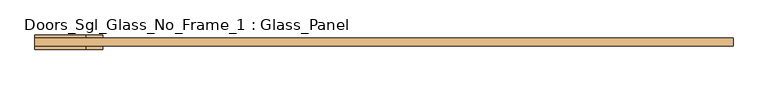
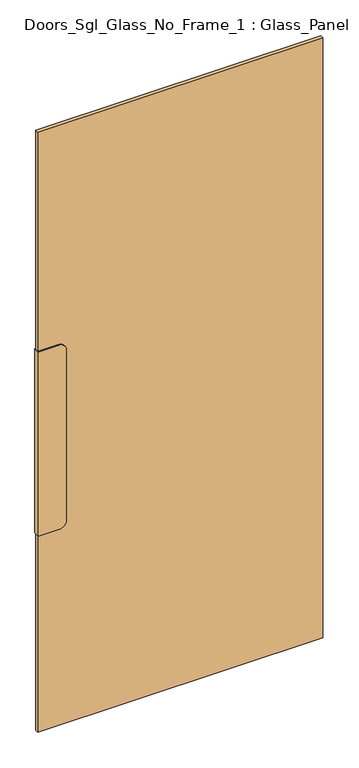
"""IFC4 building model written with IfcOpenShell, lengths in millimetres: door geometry, Doors_Sgl_Glass_No_Frame_1 : Glass_Panel."""

from ifc_helpers import new_model, si_unit, point, frame, frame_2d, origin, origin_with_axes, place, context, project, spatial, polyline, circle_curve, trimmed, segment, composite_curve, outline, extrude, source, transform, mapped, element, save


def doors_sgl_glass_no_frame_1_glass_panel_41126349(model_context):
    return source(origin(), model_context, "Body", "SweptSolid", [
        extrude(outline(composite_curve([segment(polyline([(1450.0, -438.5714285), (1450.0, -513.5714285), (750.0, -513.5714285), (750.0, -438.5714285)]), True, "CONTINUOUS"), segment(trimmed(circle_curve(frame_2d((775.0, -438.5714285)), 25.0), [point((750.0, -438.5714285))], [point((775.0, -413.5714285))], False, "CARTESIAN"), True, "CONTINUOUS"), segment(polyline([(775.0, -413.5714285), (1425.0, -413.5714285)]), True, "CONTINUOUS"), segment(trimmed(circle_curve(frame_2d((1425.0, -438.5714285)), 25.0), [point((1425.0, -413.5714285))], [point((1450.0, -438.5714285))], False, "CARTESIAN"), True, "CONTINUOUS")], self_intersect=False)), frame((0.0, -55.0, 0.0), z_axis=(0.0, 1.0, 0.0), x_axis=(0.0, 0.0, 1.0)), (0.0, 0.0, 1.0), 22.0),
        extrude(outline(polyline([(513.5714285, -50.0), (-513.5714285, -50.0), (-513.5714285, -38.0), (513.5714285, -38.0), (513.5714285, -50.0)])), origin_with_axes(), (0.0, 0.0, 1.0), 2285.0),
    ])


if __name__ == "__main__":
    model = new_model("IFC4")
    model_context = context("Model", 3, world=origin())
    ifc_project = project(units=[si_unit("LENGTHUNIT", "METRE", prefix="MILLI")], contexts=[model_context])
    site = spatial("IfcSite", under=ifc_project)
    building = spatial("IfcBuilding", under=site)
    placement = place(None, origin())
    doors_sgl_glass_no_frame_1_glass_panel_shape = doors_sgl_glass_no_frame_1_glass_panel_41126349(model_context)
    element("IfcDoor", 1, ObjectType="Doors_Sgl_Glass_No_Frame_1 : Glass_Panel", at=placement, inside=building, context=model_context, shape_type="MappedRepresentation", body=[
        mapped(doors_sgl_glass_no_frame_1_glass_panel_shape, transform((0.0, 0.0, 0.0), x_axis=(1.0, 0.0, 0.0), y_axis=(0.0, 1.0, 0.0), z_axis=(0.0, 0.0, 1.0))),
    ])
    save(model, "model.ifc")
